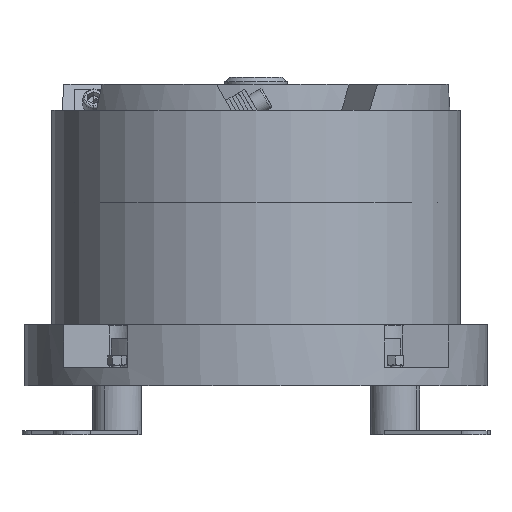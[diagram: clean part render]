
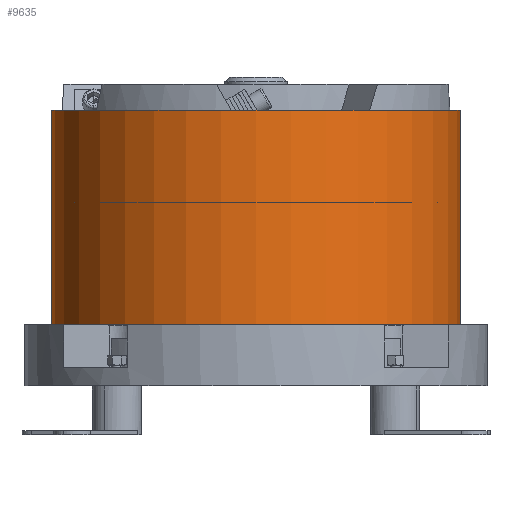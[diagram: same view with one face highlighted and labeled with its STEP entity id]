
A CAD part, front view. The second image highlights one B-rep face of the part: STEP entity #9635.
In plain terms, the highlighted cylindrical face has radius 166.5 mm (diameter 333 mm), a partial arc.
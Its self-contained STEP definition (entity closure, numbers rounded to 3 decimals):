
#584 = VERTEX_POINT ( 'NONE', #3593 ) ;
#1514 = CARTESIAN_POINT ( 'NONE',  ( -2962.082, -3716.964, 2. ) ) ;
#1564 = CARTESIAN_POINT ( 'NONE',  ( -2795.582, -3716.964, 177. ) ) ;
#2073 = CARTESIAN_POINT ( 'NONE',  ( -2962.082, -3716.964, 2. ) ) ;
#2236 = VECTOR ( 'NONE', #3829, 1000. ) ;
#2988 = AXIS2_PLACEMENT_3D ( 'NONE', #7391, #13173, #3025 ) ;
#3025 = DIRECTION ( 'NONE',  ( -1., 0., 0. ) ) ;
#3488 = EDGE_LOOP ( 'NONE', ( #9857, #7697, #12867, #4955 ) ) ;
#3593 = CARTESIAN_POINT ( 'NONE',  ( -3128.582, -3716.964, 177. ) ) ;
#3763 = CARTESIAN_POINT ( 'NONE',  ( -3128.582, -3716.964, 2. ) ) ;
#3829 = DIRECTION ( 'NONE',  ( 0., 0., 1. ) ) ;
#3917 = CIRCLE ( 'NONE', #2988, 166.5 ) ;
#4291 = AXIS2_PLACEMENT_3D ( 'NONE', #1514, #10199, #15738 ) ;
#4481 = VERTEX_POINT ( 'NONE', #18010 ) ;
#4955 = ORIENTED_EDGE ( 'NONE', *, *, #10866, .T. ) ;
#6590 = EDGE_CURVE ( 'NONE', #4481, #584, #17416, .T. ) ;
#6667 = CARTESIAN_POINT ( 'NONE',  ( -2795.582, -3716.964, 2. ) ) ;
#6714 = FACE_OUTER_BOUND ( 'NONE', #3488, .T. ) ;
#7391 = CARTESIAN_POINT ( 'NONE',  ( -2962.082, -3716.964, 177. ) ) ;
#7697 = ORIENTED_EDGE ( 'NONE', *, *, #12355, .F. ) ;
#8146 = EDGE_CURVE ( 'NONE', #11687, #15008, #10565, .T. ) ;
#9133 = CARTESIAN_POINT ( 'NONE',  ( -2795.582, -3716.964, 2. ) ) ;
#9635 = ADVANCED_FACE ( 'NONE', ( #6714 ), #11689, .T. ) ;
#9857 = ORIENTED_EDGE ( 'NONE', *, *, #6590, .F. ) ;
#10199 = DIRECTION ( 'NONE',  ( 0., 0., 1. ) ) ;
#10565 = LINE ( 'NONE', #9133, #13501 ) ;
#10596 = DIRECTION ( 'NONE',  ( 0., 0., 1. ) ) ;
#10866 = EDGE_CURVE ( 'NONE', #15008, #584, #3917, .T. ) ;
#11687 = VERTEX_POINT ( 'NONE', #6667 ) ;
#11689 = CYLINDRICAL_SURFACE ( 'NONE', #4291, 166.5 ) ;
#12202 = DIRECTION ( 'NONE',  ( -1., 0., 0. ) ) ;
#12324 = DIRECTION ( 'NONE',  ( 0., 0., -1. ) ) ;
#12355 = EDGE_CURVE ( 'NONE', #11687, #4481, #13430, .T. ) ;
#12867 = ORIENTED_EDGE ( 'NONE', *, *, #8146, .T. ) ;
#13173 = DIRECTION ( 'NONE',  ( 0., 0., -1. ) ) ;
#13430 = CIRCLE ( 'NONE', #15623, 166.5 ) ;
#13501 = VECTOR ( 'NONE', #10596, 1000. ) ;
#15008 = VERTEX_POINT ( 'NONE', #1564 ) ;
#15623 = AXIS2_PLACEMENT_3D ( 'NONE', #2073, #12324, #12202 ) ;
#15738 = DIRECTION ( 'NONE',  ( 1., 0., 0. ) ) ;
#17416 = LINE ( 'NONE', #3763, #2236 ) ;
#18010 = CARTESIAN_POINT ( 'NONE',  ( -3128.582, -3716.964, 2. ) ) ;
